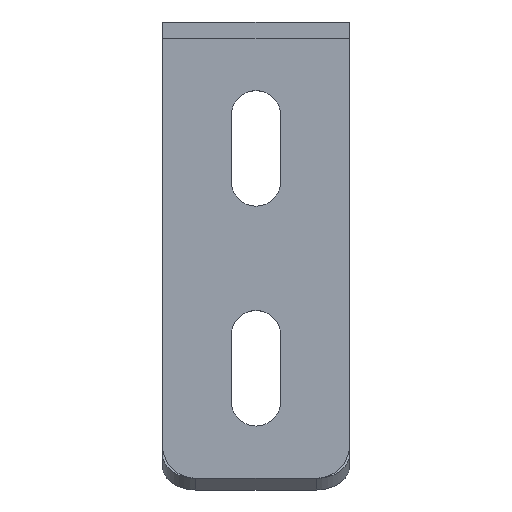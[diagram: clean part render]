
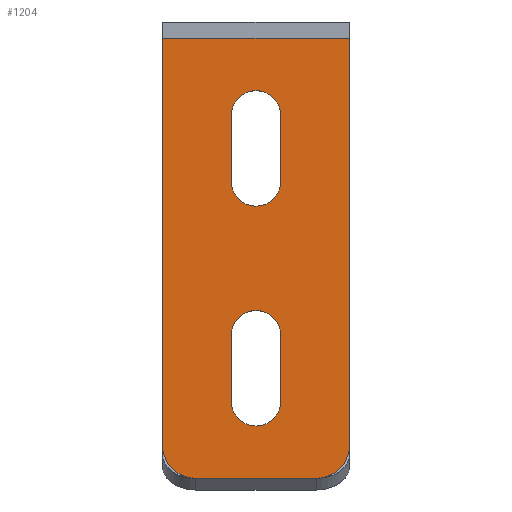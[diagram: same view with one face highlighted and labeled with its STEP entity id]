
A CAD part, top view. The second image highlights one B-rep face of the part: STEP entity #1204.
In plain terms, the highlighted planar face has unit normal (0, 0, 1).
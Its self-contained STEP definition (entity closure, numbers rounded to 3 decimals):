
#35 = DIRECTION ( 'NONE',  ( 0., -1., 0. ) ) ;
#38 = CARTESIAN_POINT ( 'NONE',  ( -7.036, 28.927, 3. ) ) ;
#39 = CARTESIAN_POINT ( 'NONE',  ( -35.036, -45.073, 3. ) ) ;
#40 = DIRECTION ( 'NONE',  ( 0., 0., 1. ) ) ;
#44 = CARTESIAN_POINT ( 'NONE',  ( -24.036, -37.073, 3. ) ) ;
#46 = CARTESIAN_POINT ( 'NONE',  ( -28.536, -25.073, 3. ) ) ;
#49 = ORIENTED_EDGE ( 'NONE', *, *, #877, .F. ) ;
#56 = EDGE_CURVE ( 'NONE', #661, #743, #1292, .T. ) ;
#70 = ORIENTED_EDGE ( 'NONE', *, *, #285, .T. ) ;
#78 = ORIENTED_EDGE ( 'NONE', *, *, #586, .F. ) ;
#97 = ORIENTED_EDGE ( 'NONE', *, *, #603, .F. ) ;
#112 = CARTESIAN_POINT ( 'NONE',  ( -24.036, 14.927, 3. ) ) ;
#113 = VECTOR ( 'NONE', #617, 1000. ) ;
#130 = DIRECTION ( 'NONE',  ( 1., 0., 0. ) ) ;
#134 = CARTESIAN_POINT ( 'NONE',  ( -19.536, -37.073, 3. ) ) ;
#135 = DIRECTION ( 'NONE',  ( 1., 0., 0. ) ) ;
#139 = DIRECTION ( 'NONE',  ( 1., 0., 0. ) ) ;
#160 = EDGE_CURVE ( 'NONE', #1171, #974, #1001, .T. ) ;
#207 = LINE ( 'NONE', #748, #1281 ) ;
#215 = DIRECTION ( 'NONE',  ( 1., 0., 0. ) ) ;
#224 = CARTESIAN_POINT ( 'NONE',  ( -13.036, -51.073, 3. ) ) ;
#227 = CARTESIAN_POINT ( 'NONE',  ( -7.036, -45.073, 3. ) ) ;
#231 = EDGE_CURVE ( 'NONE', #1103, #703, #1214, .T. ) ;
#239 = VECTOR ( 'NONE', #985, 1000. ) ;
#240 = VECTOR ( 'NONE', #35, 1000. ) ;
#243 = DIRECTION ( 'NONE',  ( 0., 1., 0. ) ) ;
#247 = AXIS2_PLACEMENT_3D ( 'NONE', #112, #838, #215 ) ;
#285 = EDGE_CURVE ( 'NONE', #1288, #558, #696, .T. ) ;
#308 = PLANE ( 'NONE',  #681 ) ;
#313 = DIRECTION ( 'NONE',  ( 0., 0., 1. ) ) ;
#317 = VECTOR ( 'NONE', #1223, 1000. ) ;
#323 = ORIENTED_EDGE ( 'NONE', *, *, #231, .F. ) ;
#326 = CARTESIAN_POINT ( 'NONE',  ( -35.036, -51.073, 3. ) ) ;
#334 = EDGE_CURVE ( 'NONE', #1265, #661, #668, .T. ) ;
#354 = CARTESIAN_POINT ( 'NONE',  ( -28.536, -37.073, 3. ) ) ;
#371 = CARTESIAN_POINT ( 'NONE',  ( -19.536, 14.927, 3. ) ) ;
#379 = AXIS2_PLACEMENT_3D ( 'NONE', #659, #40, #757 ) ;
#393 = CIRCLE ( 'NONE', #481, 6. ) ;
#405 = CARTESIAN_POINT ( 'NONE',  ( -28.536, 14.927, 3. ) ) ;
#464 = VECTOR ( 'NONE', #243, 1000. ) ;
#481 = AXIS2_PLACEMENT_3D ( 'NONE', #1167, #551, #1268 ) ;
#489 = FACE_BOUND ( 'NONE', #876, .T. ) ;
#518 = LINE ( 'NONE', #779, #239 ) ;
#551 = DIRECTION ( 'NONE',  ( 0., 0., 1. ) ) ;
#558 = VERTEX_POINT ( 'NONE', #326 ) ;
#563 = VECTOR ( 'NONE', #1279, 1000. ) ;
#567 = EDGE_CURVE ( 'NONE', #558, #676, #207, .T. ) ;
#580 = CARTESIAN_POINT ( 'NONE',  ( -41.036, -45.073, 3. ) ) ;
#586 = EDGE_CURVE ( 'NONE', #703, #1171, #726, .T. ) ;
#589 = LINE ( 'NONE', #1073, #563 ) ;
#603 = EDGE_CURVE ( 'NONE', #874, #1265, #1244, .T. ) ;
#615 = CARTESIAN_POINT ( 'NONE',  ( -41.036, 28.927, 3. ) ) ;
#617 = DIRECTION ( 'NONE',  ( 0., -1., 0. ) ) ;
#618 = AXIS2_PLACEMENT_3D ( 'NONE', #44, #761, #139 ) ;
#659 = CARTESIAN_POINT ( 'NONE',  ( -24.036, 2.927, 3. ) ) ;
#661 = VERTEX_POINT ( 'NONE', #46 ) ;
#668 = CIRCLE ( 'NONE', #829, 4.5 ) ;
#676 = VERTEX_POINT ( 'NONE', #224 ) ;
#681 = AXIS2_PLACEMENT_3D ( 'NONE', #918, #313, #958 ) ;
#687 = VERTEX_POINT ( 'NONE', #227 ) ;
#696 = CIRCLE ( 'NONE', #972, 6. ) ;
#703 = VERTEX_POINT ( 'NONE', #854 ) ;
#726 = CIRCLE ( 'NONE', #379, 4.5 ) ;
#728 = FACE_BOUND ( 'NONE', #773, .T. ) ;
#743 = VERTEX_POINT ( 'NONE', #354 ) ;
#748 = CARTESIAN_POINT ( 'NONE',  ( -35.036, -51.073, 3. ) ) ;
#752 = CARTESIAN_POINT ( 'NONE',  ( -28.536, -37.073, 3. ) ) ;
#756 = DIRECTION ( 'NONE',  ( 0., 0., 1. ) ) ;
#757 = DIRECTION ( 'NONE',  ( 1., 0., 0. ) ) ;
#761 = DIRECTION ( 'NONE',  ( 0., 0., 1. ) ) ;
#767 = VECTOR ( 'NONE', #1079, 1000. ) ;
#772 = CARTESIAN_POINT ( 'NONE',  ( -28.536, 2.927, 3. ) ) ;
#773 = EDGE_LOOP ( 'NONE', ( #993, #1328, #97, #49 ) ) ;
#779 = CARTESIAN_POINT ( 'NONE',  ( -41.036, 28.927, 3. ) ) ;
#789 = ORIENTED_EDGE ( 'NONE', *, *, #1278, .T. ) ;
#811 = CARTESIAN_POINT ( 'NONE',  ( -19.536, 2.927, 3. ) ) ;
#813 = DIRECTION ( 'NONE',  ( 0., 0., 1. ) ) ;
#814 = ORIENTED_EDGE ( 'NONE', *, *, #1091, .F. ) ;
#821 = LINE ( 'NONE', #1117, #317 ) ;
#829 = AXIS2_PLACEMENT_3D ( 'NONE', #863, #813, #903 ) ;
#835 = EDGE_CURVE ( 'NONE', #676, #687, #393, .T. ) ;
#838 = DIRECTION ( 'NONE',  ( 0., 0., 1. ) ) ;
#845 = CARTESIAN_POINT ( 'NONE',  ( -19.536, 14.927, 3. ) ) ;
#854 = CARTESIAN_POINT ( 'NONE',  ( -28.536, 2.927, 3. ) ) ;
#863 = CARTESIAN_POINT ( 'NONE',  ( -24.036, -25.073, 3. ) ) ;
#865 = VERTEX_POINT ( 'NONE', #38 ) ;
#874 = VERTEX_POINT ( 'NONE', #134 ) ;
#876 = EDGE_LOOP ( 'NONE', ( #323, #814, #1197, #78 ) ) ;
#877 = EDGE_CURVE ( 'NONE', #743, #874, #1135, .T. ) ;
#881 = CARTESIAN_POINT ( 'NONE',  ( -19.536, -25.073, 3. ) ) ;
#887 = EDGE_LOOP ( 'NONE', ( #1315, #789, #70, #1289, #1188, #1003 ) ) ;
#903 = DIRECTION ( 'NONE',  ( 1., 0., 0. ) ) ;
#918 = CARTESIAN_POINT ( 'NONE',  ( -13.036, -45.073, 3. ) ) ;
#926 = EDGE_CURVE ( 'NONE', #865, #1199, #589, .T. ) ;
#958 = DIRECTION ( 'NONE',  ( 1., 0., 0. ) ) ;
#962 = CARTESIAN_POINT ( 'NONE',  ( -19.536, -25.073, 3. ) ) ;
#972 = AXIS2_PLACEMENT_3D ( 'NONE', #39, #756, #135 ) ;
#974 = VERTEX_POINT ( 'NONE', #845 ) ;
#985 = DIRECTION ( 'NONE',  ( 0., -1., 0. ) ) ;
#993 = ORIENTED_EDGE ( 'NONE', *, *, #56, .F. ) ;
#1001 = LINE ( 'NONE', #371, #767 ) ;
#1003 = ORIENTED_EDGE ( 'NONE', *, *, #1107, .T. ) ;
#1073 = CARTESIAN_POINT ( 'NONE',  ( -41.036, 28.927, 3. ) ) ;
#1079 = DIRECTION ( 'NONE',  ( 0., 1., 0. ) ) ;
#1091 = EDGE_CURVE ( 'NONE', #974, #1103, #1131, .T. ) ;
#1103 = VERTEX_POINT ( 'NONE', #405 ) ;
#1107 = EDGE_CURVE ( 'NONE', #687, #865, #821, .T. ) ;
#1117 = CARTESIAN_POINT ( 'NONE',  ( -7.036, 14.927, 3. ) ) ;
#1131 = CIRCLE ( 'NONE', #247, 4.5 ) ;
#1135 = CIRCLE ( 'NONE', #618, 4.5 ) ;
#1167 = CARTESIAN_POINT ( 'NONE',  ( -13.036, -45.073, 3. ) ) ;
#1171 = VERTEX_POINT ( 'NONE', #811 ) ;
#1188 = ORIENTED_EDGE ( 'NONE', *, *, #835, .T. ) ;
#1197 = ORIENTED_EDGE ( 'NONE', *, *, #160, .F. ) ;
#1199 = VERTEX_POINT ( 'NONE', #615 ) ;
#1204 = ADVANCED_FACE ( 'NONE', ( #489, #1282, #728 ), #308, .T. ) ;
#1214 = LINE ( 'NONE', #772, #113 ) ;
#1223 = DIRECTION ( 'NONE',  ( 0., 1., 0. ) ) ;
#1244 = LINE ( 'NONE', #962, #464 ) ;
#1265 = VERTEX_POINT ( 'NONE', #881 ) ;
#1268 = DIRECTION ( 'NONE',  ( 1., 0., 0. ) ) ;
#1278 = EDGE_CURVE ( 'NONE', #1199, #1288, #518, .T. ) ;
#1279 = DIRECTION ( 'NONE',  ( -1., 0., 0. ) ) ;
#1281 = VECTOR ( 'NONE', #130, 1000. ) ;
#1282 = FACE_OUTER_BOUND ( 'NONE', #887, .T. ) ;
#1288 = VERTEX_POINT ( 'NONE', #580 ) ;
#1289 = ORIENTED_EDGE ( 'NONE', *, *, #567, .T. ) ;
#1292 = LINE ( 'NONE', #752, #240 ) ;
#1315 = ORIENTED_EDGE ( 'NONE', *, *, #926, .T. ) ;
#1328 = ORIENTED_EDGE ( 'NONE', *, *, #334, .F. ) ;
